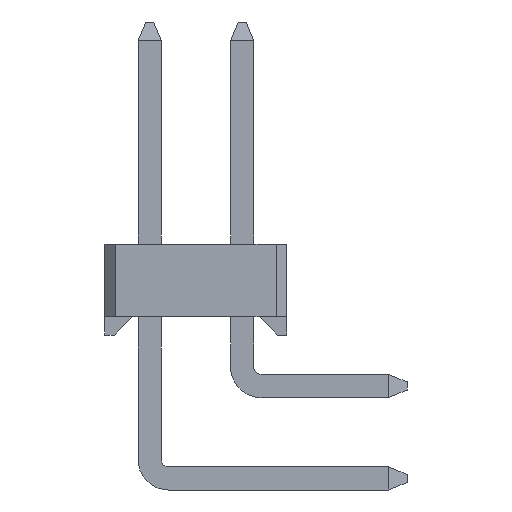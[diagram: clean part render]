
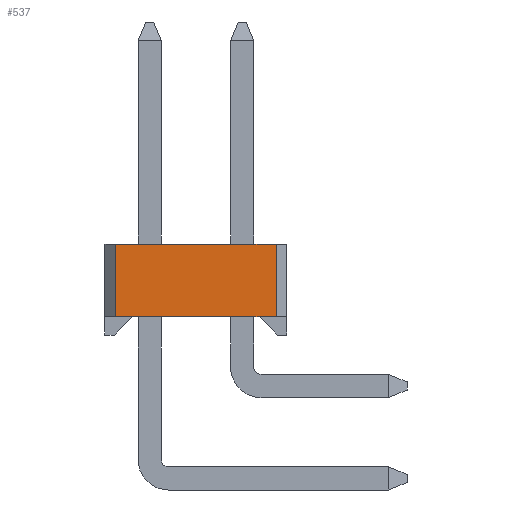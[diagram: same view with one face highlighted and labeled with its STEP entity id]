
A CAD part, left-side view. The second image highlights one B-rep face of the part: STEP entity #537.
In plain terms, the highlighted planar face has unit normal (-1, 0, 0).
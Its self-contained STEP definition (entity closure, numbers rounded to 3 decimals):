
#537=ADVANCED_FACE('',(#3797),#2223,.T.);
#2223=PLANE('',#30870);
#3797=FACE_OUTER_BOUND('',#5595,.T.);
#5595=EDGE_LOOP('',(#8778,#8779,#8780,#8781));
#8778=ORIENTED_EDGE('',*,*,#19851,.F.);
#8779=ORIENTED_EDGE('',*,*,#19271,.T.);
#8780=ORIENTED_EDGE('',*,*,#19852,.T.);
#8781=ORIENTED_EDGE('',*,*,#19753,.T.);
#16523=VERTEX_POINT('',#42218);
#16524=VERTEX_POINT('',#42220);
#16927=VERTEX_POINT('',#43105);
#16928=VERTEX_POINT('',#43107);
#19271=EDGE_CURVE('',#16524,#16523,#23539,.T.);
#19753=EDGE_CURVE('',#16928,#16927,#24021,.T.);
#19851=EDGE_CURVE('',#16524,#16927,#24119,.T.);
#19852=EDGE_CURVE('',#16523,#16928,#24120,.T.);
#23539=LINE('',#42219,#27583);
#24021=LINE('',#43106,#28065);
#24119=LINE('',#43274,#28163);
#24120=LINE('',#43275,#28164);
#27583=VECTOR('',#33644,1.);
#28065=VECTOR('',#34128,1.);
#28163=VECTOR('',#34230,1.);
#28164=VECTOR('',#34231,1.);
#30870=AXIS2_PLACEMENT_3D('',#43276,#34232,#34233);
#33644=DIRECTION('',(0.,-1.,0.));
#34128=DIRECTION('',(0.,1.,0.));
#34230=DIRECTION('',(0.,0.,1.));
#34231=DIRECTION('',(0.,0.,1.));
#34232=DIRECTION('',(-1.,0.,0.));
#34233=DIRECTION('',(0.,0.,1.));
#42218=CARTESIAN_POINT('',(0.,0.3,0.));
#42219=CARTESIAN_POINT('',(0.,2.5,0.));
#42220=CARTESIAN_POINT('',(0.,4.7,0.));
#43105=CARTESIAN_POINT('',(0.,4.7,2.));
#43106=CARTESIAN_POINT('',(0.,2.5,2.));
#43107=CARTESIAN_POINT('',(0.,0.3,2.));
#43274=CARTESIAN_POINT('',(0.,4.7,0.));
#43275=CARTESIAN_POINT('',(0.,0.3,0.));
#43276=CARTESIAN_POINT('',(0.,2.5,0.));
